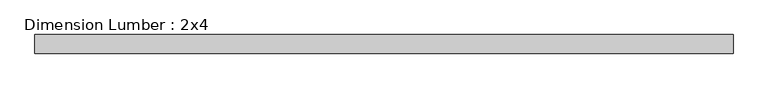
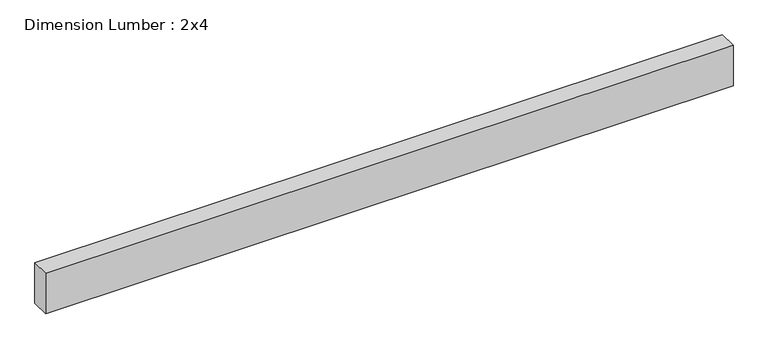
"""IFC4 building model written with IfcOpenShell, lengths in millimetres: beam geometry, Dimension Lumber : 2x4."""

import ifcopenshell
import ifcopenshell.guid

model = None  # the IFC model being written
_history = None  # IfcOwnerHistory: only IFC2X3 demands one
_inside = {}  # id of a spatial element -> (the spatial element, [elements in it])
_under = {}  # id of a project, library or spatial element -> (it, [spatial elements below it])
_declared = {}  # id of a project -> (the project, [libraries it declares])
_typed = {}  # id of a type object -> (the type object, [elements of that type])
_made_of = {}  # id of a material, layer set ... -> (it, [elements and type objects made of it])


def new_model(schema):
    """Start an empty IFC model of exactly this schema.

    Asked for "IFC4X3", IfcOpenShell would pick the latest addendum, in which some entities
    have other attributes; the version numbers below select the first issue.
    IFC2X3 requires an IfcOwnerHistory on every rooted entity: one is made here for all.
    """
    global model, _history
    if schema == "IFC4X3":
        model = ifcopenshell.file(schema_version=(4, 3, 0, 0))
    else:
        model = ifcopenshell.file(schema=schema)
    _inside.clear()
    _under.clear()
    _declared.clear()
    _typed.clear()
    _made_of.clear()
    _history = None
    if model.schema == "IFC2X3":
        org = make("IfcOrganization", Name="unknown")
        user = make(
            "IfcPersonAndOrganization",
            ThePerson=make("IfcPerson", FamilyName="unknown"),
            TheOrganization=org,
        )
        app = make(
            "IfcApplication",
            ApplicationDeveloper=org,
            Version="unknown",
            ApplicationFullName="unknown",
            ApplicationIdentifier="unknown",
        )
        _history = make(
            "IfcOwnerHistory",
            OwningUser=user,
            OwningApplication=app,
            ChangeAction="ADDED",
            CreationDate=0,
        )
    return model


def make(cls, **values):
    """One entity of the class cls with the attributes given. An attribute that is None is left unset."""
    return model.create_entity(
        cls, **{name: value for name, value in values.items() if value is not None}
    )


def rooted(cls, **values):
    """An entity with a GlobalId (a new one), such as an element, a storey or a relation."""
    return make(cls, GlobalId=ifcopenshell.guid.new(), OwnerHistory=_history, **values)


def si_unit(unit_type, name, prefix=None):
    """IfcSIUnit, for example si_unit("LENGTHUNIT", "METRE", prefix="MILLI")."""
    return make("IfcSIUnit", UnitType=unit_type, Prefix=prefix, Name=name)


def assignment(units):
    """IfcUnitAssignment: the units of a project."""
    return None if units is None else make("IfcUnitAssignment", Units=units)


def point(xyz):
    """IfcCartesianPoint."""
    return None if xyz is None else make("IfcCartesianPoint", Coordinates=xyz)


def direction(xyz):
    """IfcDirection."""
    return None if xyz is None else make("IfcDirection", DirectionRatios=xyz)


def frame(location, z_axis=None, x_axis=None):
    """IfcAxis2Placement3D, a coordinate frame: its origin and axes. An axis left out is left unset."""
    return make(
        "IfcAxis2Placement3D",
        Location=point(location),
        Axis=direction(z_axis),
        RefDirection=direction(x_axis),
    )


def origin():
    """The frame at (0, 0, 0) with its axes left unset."""
    return frame((0.0, 0.0, 0.0))


def place(relative_to, where):
    """IfcLocalPlacement: puts the frame where relative to a parent placement (None: the world)."""
    return make(
        "IfcLocalPlacement", PlacementRelTo=relative_to, RelativePlacement=where
    )


def context(
    kind, dimensions, precision=None, world=None, true_north=None, identifier=None
):
    """IfcGeometricRepresentationContext, for example the 3D "Model" context."""
    return make(
        "IfcGeometricRepresentationContext",
        ContextIdentifier=identifier,
        ContextType=kind,
        CoordinateSpaceDimension=dimensions,
        Precision=precision,
        WorldCoordinateSystem=world,
        TrueNorth=true_north,
    )


def project(units=None, contexts=None):
    """IfcProject with its units and contexts."""
    return rooted(
        "IfcProject",
        Name="project",
        RepresentationContexts=contexts,
        UnitsInContext=assignment(units),
    )


def spatial(cls, under=None, at=None, **own):
    """A site, building, storey or space (cls), placed at a placement, below another one or the project."""
    s = rooted(cls, ObjectPlacement=at, **own)
    if under is not None:
        _under.setdefault(under.id(), (under, []))[1].append(s)
    return s


def polyline(points):
    """IfcPolyline through the points."""
    return make("IfcPolyline", Points=[point(p) for p in points])


def outline(outer, holes=None, kind="AREA"):
    """IfcArbitraryClosedProfileDef: a profile drawn as a closed curve; with holes, ...WithVoids."""
    if holes is None:
        return make("IfcArbitraryClosedProfileDef", ProfileType=kind, OuterCurve=outer)
    return make(
        "IfcArbitraryProfileDefWithVoids",
        ProfileType=kind,
        OuterCurve=outer,
        InnerCurves=holes,
    )


def extrude(swept, where, along, depth):
    """IfcExtrudedAreaSolid: the profile swept, set in the frame where, extruded along a direction by depth."""
    return make(
        "IfcExtrudedAreaSolid",
        SweptArea=swept,
        Position=where,
        ExtrudedDirection=direction(along),
        Depth=depth,
    )


def shape(context_of_items, identifier, shape_type, items):
    """IfcShapeRepresentation: the items that make up one representation, for example the "Body"."""
    return make(
        "IfcShapeRepresentation",
        ContextOfItems=context_of_items,
        RepresentationIdentifier=identifier,
        RepresentationType=shape_type,
        Items=items,
    )


def source(mapping_origin, context_of_items, identifier, shape_type, items):
    """IfcRepresentationMap: a shape defined once, which mapped items show again and again."""
    return make(
        "IfcRepresentationMap",
        MappingOrigin=mapping_origin,
        MappedRepresentation=shape(context_of_items, identifier, shape_type, items),
    )


def transform(
    local_origin,
    x_axis=None,
    y_axis=None,
    z_axis=None,
    scale=None,
    scale2=None,
    scale3=None,
    uniform=True,
):
    """IfcCartesianTransformationOperator3D, or its non-uniform kind. x_axis, y_axis, z_axis: its Axis1, 2, 3."""
    if uniform:
        return make(
            "IfcCartesianTransformationOperator3D",
            Axis1=direction(x_axis),
            Axis2=direction(y_axis),
            LocalOrigin=point(local_origin),
            Scale=scale,
            Axis3=direction(z_axis),
        )
    return make(
        "IfcCartesianTransformationOperator3DnonUniform",
        Axis1=direction(x_axis),
        Axis2=direction(y_axis),
        LocalOrigin=point(local_origin),
        Scale=scale,
        Axis3=direction(z_axis),
        Scale2=scale2,
        Scale3=scale3,
    )


def mapped(mapping_source, mapping_target):
    """IfcMappedItem: shows the shape of a source again, moved by a transform."""
    return make(
        "IfcMappedItem", MappingSource=mapping_source, MappingTarget=mapping_target
    )


def made_of(thing, what):
    """Note that an element or type object is made of a material, layer set ...; save() writes the relation."""
    if what is not None:
        _made_of.setdefault(what.id(), (what, []))[1].append(thing)
    return thing


def element(
    cls,
    number,
    at=None,
    inside=None,
    cuts=None,
    type_object=None,
    material=None,
    context=None,
    identifier="Body",
    shape_type=None,
    held_by="IfcProductDefinitionShape",
    body=None,
    shapes=None,
    **own,
):
    """One element of the class cls, such as IfcWall. Its Tag is "e" and its number.

    at: its placement. inside: the storey or other place that contains it. cuts: it is an
    opening in that element (IfcRelVoidsElement). A single representation is given by context,
    identifier, shape_type and body (its items); several are given by shapes. held_by: the class
    of the entity that holds the representations. save() writes the other relations.
    """
    e = rooted(cls, Tag="e%d" % number, ObjectPlacement=at, **own)
    if body is not None:
        shapes = [shape(context, identifier, shape_type, body)]
    if shapes is not None:
        e.Representation = make(held_by, Representations=shapes)
    if inside is not None:
        _inside.setdefault(inside.id(), (inside, []))[1].append(e)
    if cuts is not None:
        rooted(
            "IfcRelVoidsElement", RelatingBuildingElement=cuts, RelatedOpeningElement=e
        )
    if type_object is not None:
        _typed.setdefault(type_object.id(), (type_object, []))[1].append(e)
    return made_of(e, material)


def aggregate(whole, parts):
    """IfcRelAggregates: a whole, such as a stair, and the parts it consists of."""
    return rooted("IfcRelAggregates", RelatingObject=whole, RelatedObjects=parts)


def save(model, path):
    """Write the relations noted so far, then the file.

    IfcRelAggregates (storeys below a building ...), IfcRelContainedInSpatialStructure (elements
    in a storey), IfcRelDefinesByType, IfcRelAssociatesMaterial and IfcRelDeclares: one each for
    every whole, place, type object, material and project.
    """
    for whole, parts in _under.values():
        aggregate(whole, parts)
    for where, things in _inside.values():
        rooted(
            "IfcRelContainedInSpatialStructure",
            RelatedElements=things,
            RelatingStructure=where,
        )
    for kind, things in _typed.values():
        rooted("IfcRelDefinesByType", RelatedObjects=things, RelatingType=kind)
    for what, things in _made_of.values():
        rooted("IfcRelAssociatesMaterial", RelatedObjects=things, RelatingMaterial=what)
    for by, libraries in _declared.values():
        rooted("IfcRelDeclares", RelatingContext=by, RelatedDefinitions=libraries)
    model.write(path)


def dimension_lumber_2x4_1b001786(model_context):
    return source(origin(), model_context, "Body", "SweptSolid", [
        extrude(outline(polyline([(713.0520833, 19.05), (713.0520833, -19.05), (-713.0520833, -19.05), (-713.0520833, 19.05), (713.0520833, 19.05)])), frame((0.0, 0.0, -44.45), z_axis=(0.0, 0.0, 1.0), x_axis=(1.0, 0.0, 0.0)), (0.0, 0.0, 1.0), 88.9),
    ])


if __name__ == "__main__":
    model = new_model("IFC4")
    model_context = context("Model", 3, world=origin())
    ifc_project = project(units=[si_unit("LENGTHUNIT", "METRE", prefix="MILLI")], contexts=[model_context])
    site = spatial("IfcSite", under=ifc_project)
    building = spatial("IfcBuilding", under=site)
    placement = place(None, origin())
    dimension_lumber_2x4_shape = dimension_lumber_2x4_1b001786(model_context)
    element("IfcBeam", 1, ObjectType="Dimension Lumber : 2x4", at=placement, inside=building, context=model_context, shape_type="MappedRepresentation", body=[
        mapped(dimension_lumber_2x4_shape, transform((0.0, 0.0, 0.0), x_axis=(1.0, 0.0, 0.0), y_axis=(0.0, 1.0, 0.0), z_axis=(0.0, 0.0, 1.0))),
    ])
    save(model, "model.ifc")
